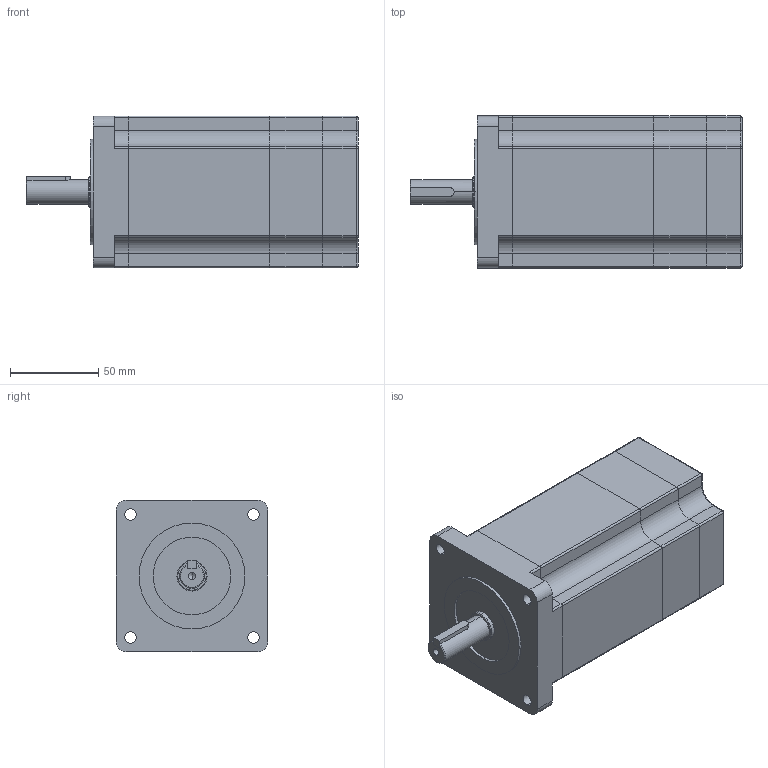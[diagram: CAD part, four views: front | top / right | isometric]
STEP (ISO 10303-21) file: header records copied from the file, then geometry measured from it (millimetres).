
FILE_DESCRIPTION (( 'STEP AP203' ), '1' );
FILE_NAME ('TM3401C30A-P1000.STEP', '2019-02-20T06:18:20', ( 'User' ), ( 'www.dadighost.com' ), 'SwSTEP 2.0', 'SolidWorks 2014', '' );
FILE_SCHEMA (( 'CONFIG_CONTROL_DESIGN' ));
Length unit declared in the file: millimetre
Products named in the file (1): TM3401C30A-P1000
Bounding box: 188 x 86 x 86 mm (x, y, z)
Volume: 959748.9 mm3; surface area: 104763.8 mm2
Topology: 5 solids, 5 shells, 175 faces, 453 edges, 283 vertices
Faces by surface type: cylinder 85, plane 72, sphere 8, torus 6, cone 4
Entity records: 5394 total; most frequent: DIRECTION 969, CARTESIAN_POINT 940, ORIENTED_EDGE 886, EDGE_CURVE 443, AXIS2_PLACEMENT_3D 354, VERTEX_POINT 283, LINE 261, VECTOR 261
